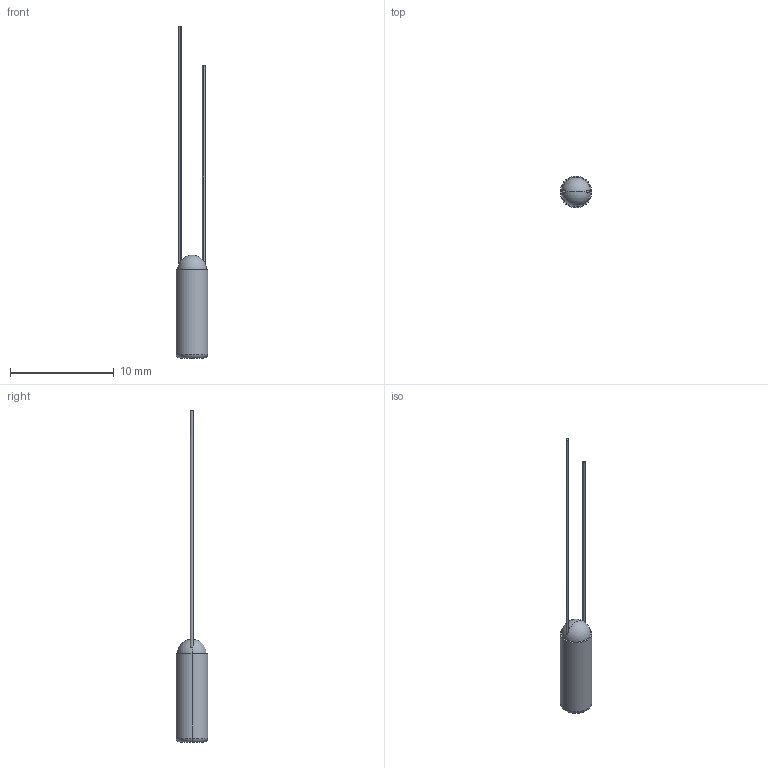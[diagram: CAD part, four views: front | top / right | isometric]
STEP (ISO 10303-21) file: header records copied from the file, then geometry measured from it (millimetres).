
FILE_DESCRIPTION (( 'STEP AP203' ), '1' );
FILE_NAME ('CS-501GR.STEP', '2020-05-11T13:51:16', ( '' ), ( '' ), 'SwSTEP 2.0', 'SolidWorks 2020', '' );
FILE_SCHEMA (( 'CONFIG_CONTROL_DESIGN' ));
Length unit declared in the file: inch
Products named in the file (2): CS-501GR; Group1^CS-501GR Dummy_defeature
Assembly tree (1 placements, depth 2):
  CS-501GR
    Group1^CS-501GR Dummy_defeature
Bounding box: 3.05 x 3.05 x 32 mm (x, y, z)
Volume: 69.6 mm3; surface area: 133.7 mm2
Topology: 1 solids, 1 shells, 14 faces, 36 edges, 23 vertices
Faces by surface type: cylinder 6, plane 4, sphere 2, torus 2
Entity records: 644 total; most frequent: CARTESIAN_POINT 125, DIRECTION 78, ORIENTED_EDGE 64, AXIS2_PLACEMENT_3D 36, EDGE_CURVE 32, VERTEX_POINT 21, CIRCLE 18, PERSON_AND_ORGANIZATION 17
